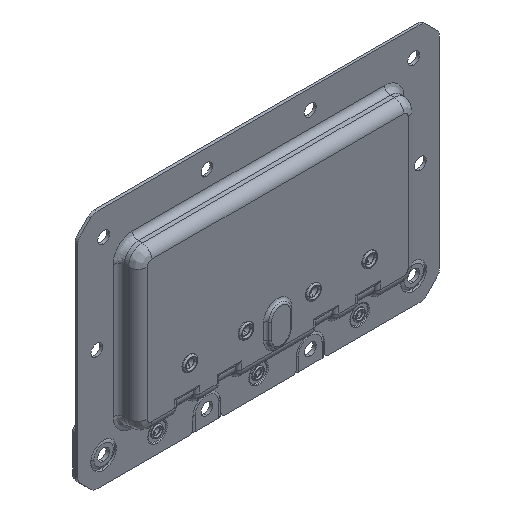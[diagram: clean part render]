
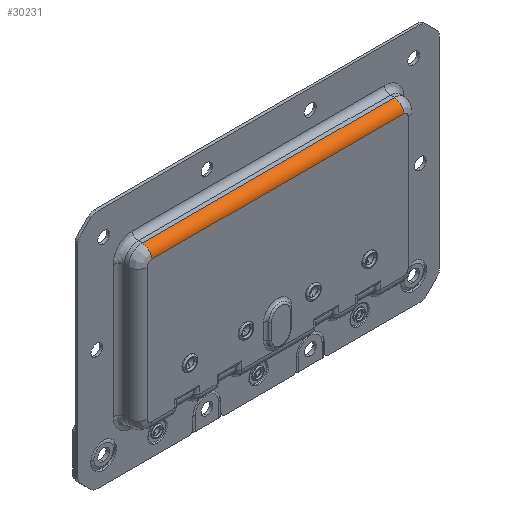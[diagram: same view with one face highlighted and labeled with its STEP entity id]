
A CAD part, isometric view. The second image highlights one B-rep face of the part: STEP entity #30231.
In plain terms, the highlighted cylindrical face has radius 4.2 mm (diameter 8.4 mm), a partial arc.
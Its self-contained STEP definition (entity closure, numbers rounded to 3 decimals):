
#918 = LINE ( 'NONE', #57812, #9166 ) ;
#1872 = VERTEX_POINT ( 'NONE', #46614 ) ;
#4478 = CARTESIAN_POINT ( 'NONE',  ( 56.05, -4.3, 31.3 ) ) ;
#5182 = EDGE_CURVE ( 'NONE', #45882, #1872, #9195, .T. ) ;
#5367 = DIRECTION ( 'NONE',  ( -1., 0., 0. ) ) ;
#8306 = ORIENTED_EDGE ( 'NONE', *, *, #50778, .F. ) ;
#9166 = VECTOR ( 'NONE', #5367, 1000. ) ;
#9195 = CIRCLE ( 'NONE', #51553, 4.2 ) ;
#9577 = DIRECTION ( 'NONE',  ( 0., 0., 1. ) ) ;
#9683 = ORIENTED_EDGE ( 'NONE', *, *, #33095, .F. ) ;
#10889 = DIRECTION ( 'NONE',  ( 0., -1., 0. ) ) ;
#12363 = CARTESIAN_POINT ( 'NONE',  ( 56.05, -8.5, 31.3 ) ) ;
#13453 = CARTESIAN_POINT ( 'NONE',  ( 0., -8.5, 31.3 ) ) ;
#17238 = CARTESIAN_POINT ( 'NONE',  ( 56.05, -4.3, 35.5 ) ) ;
#17607 = CARTESIAN_POINT ( 'NONE',  ( -56.05, -4.3, 31.3 ) ) ;
#17819 = FACE_OUTER_BOUND ( 'NONE', #35253, .T. ) ;
#18449 = ORIENTED_EDGE ( 'NONE', *, *, #31639, .T. ) ;
#18558 = DIRECTION ( 'NONE',  ( -1., 0., 0. ) ) ;
#20288 = VERTEX_POINT ( 'NONE', #17238 ) ;
#21714 = AXIS2_PLACEMENT_3D ( 'NONE', #4478, #57862, #9577 ) ;
#22252 = CYLINDRICAL_SURFACE ( 'NONE', #21714, 4.2 ) ;
#26053 = CARTESIAN_POINT ( 'NONE',  ( 56.05, -4.3, 31.3 ) ) ;
#27067 = DIRECTION ( 'NONE',  ( 0., 0.067, 0.998 ) ) ;
#28199 = AXIS2_PLACEMENT_3D ( 'NONE', #26053, #44996, #10889 ) ;
#29259 = CIRCLE ( 'NONE', #28199, 4.2 ) ;
#30231 = ADVANCED_FACE ( 'NONE', ( #17819 ), #22252, .T. ) ;
#31639 = EDGE_CURVE ( 'NONE', #20288, #45882, #918, .T. ) ;
#33095 = EDGE_CURVE ( 'NONE', #57208, #1872, #37171, .T. ) ;
#35253 = EDGE_LOOP ( 'NONE', ( #18449, #46636, #9683, #8306 ) ) ;
#37171 = LINE ( 'NONE', #13453, #60406 ) ;
#44996 = DIRECTION ( 'NONE',  ( 1., 0., 0. ) ) ;
#45882 = VERTEX_POINT ( 'NONE', #58757 ) ;
#46311 = DIRECTION ( 'NONE',  ( 1., 0., 0. ) ) ;
#46614 = CARTESIAN_POINT ( 'NONE',  ( -56.05, -8.5, 31.3 ) ) ;
#46636 = ORIENTED_EDGE ( 'NONE', *, *, #5182, .T. ) ;
#50778 = EDGE_CURVE ( 'NONE', #20288, #57208, #29259, .T. ) ;
#51553 = AXIS2_PLACEMENT_3D ( 'NONE', #17607, #46311, #27067 ) ;
#57208 = VERTEX_POINT ( 'NONE', #12363 ) ;
#57812 = CARTESIAN_POINT ( 'NONE',  ( 0., -4.3, 35.5 ) ) ;
#57862 = DIRECTION ( 'NONE',  ( -1., 0., 0. ) ) ;
#58757 = CARTESIAN_POINT ( 'NONE',  ( -56.05, -4.3, 35.5 ) ) ;
#60406 = VECTOR ( 'NONE', #18558, 1000. ) ;
